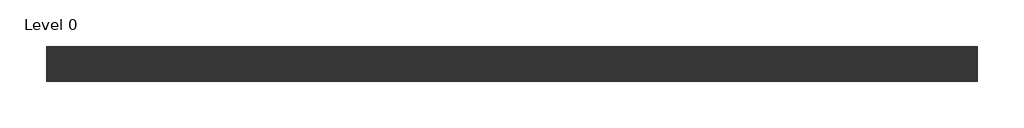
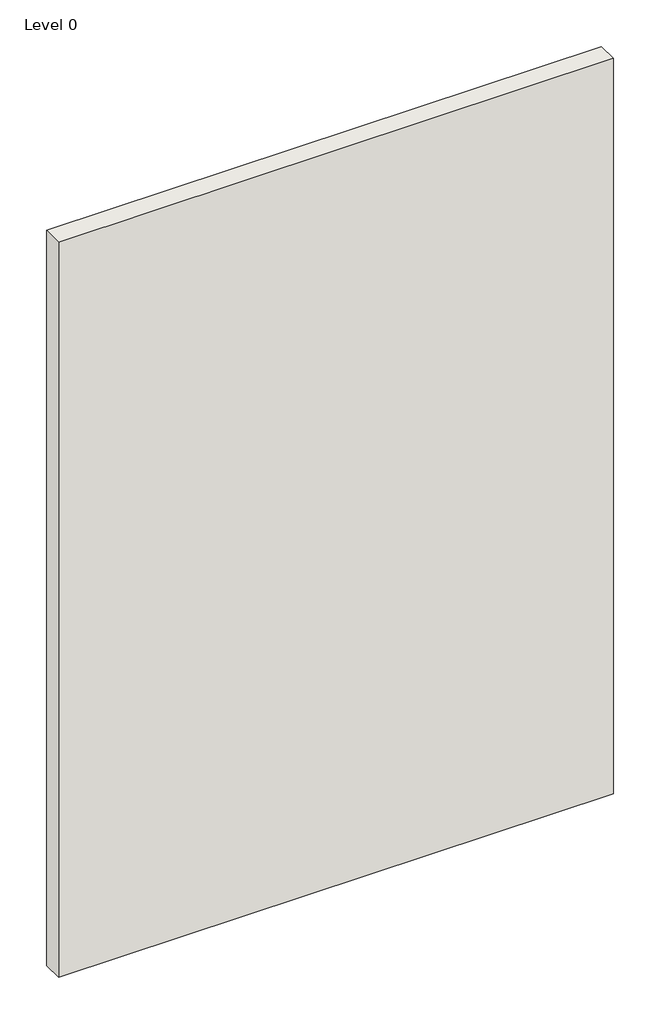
# One storey: 1 wall.
"""IFC4 building model written with IfcOpenShell, lengths in millimetres."""

from ifc_helpers import new_model, si_unit, origin, origin_with_axes, place, context, project, spatial, polyline, outline, extrude, element, save

model = new_model("IFC4")

# Units and contexts
model_context = context("Model", 3, world=origin())
ifc_project = project(units=[si_unit("LENGTHUNIT", "METRE", prefix="MILLI")], contexts=[model_context])

# Site, building, storey
site = spatial("IfcSite", under=ifc_project)
building = spatial("IfcBuilding", under=site)
storey = spatial("IfcBuildingStorey", under=building, Name="Level 0", Elevation=0.0)

# Wall
placement = place(None, origin())
element("IfcWall", 1, ObjectType="G106013 - GypWall CLASSIC", at=placement, inside=storey, context=model_context, shape_type="SweptSolid", body=[
    extrude(outline(polyline([(2116.0807354, 537.7205641), (-883.9192646, 537.7205641), (-883.9192646, 649.7205641), (2116.0807354, 649.7205641), (2116.0807354, 537.7205641)])), origin_with_axes(), (0.0, 0.0, 1.0), 4200.0),
])

save(model, "model.ifc")
